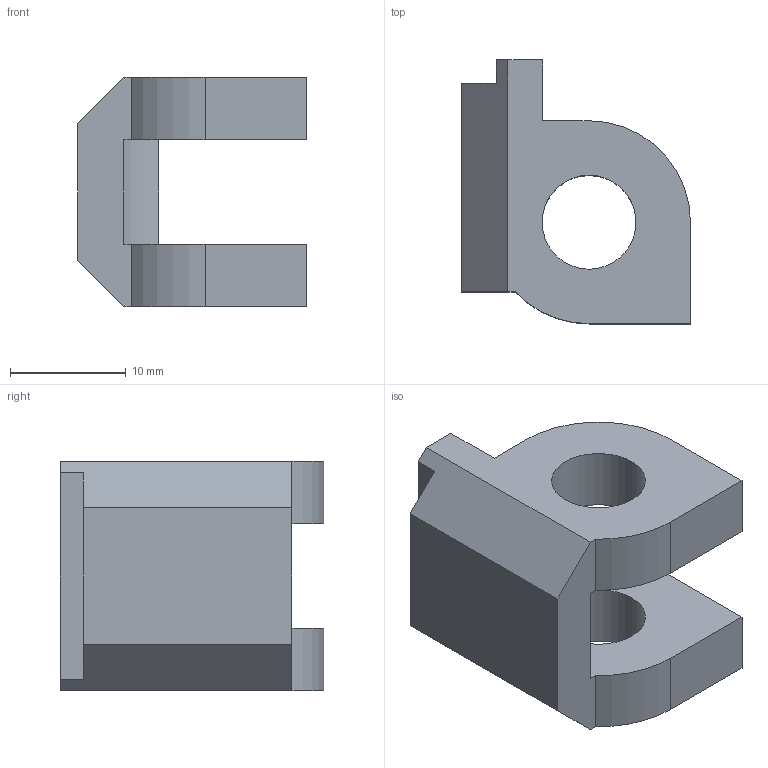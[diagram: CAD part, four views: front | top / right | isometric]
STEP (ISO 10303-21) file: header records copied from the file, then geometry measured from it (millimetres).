
FILE_DESCRIPTION((''),'2;1');
FILE_NAME('C:\Users\JamesRPatrick\Documents\Autodesk\PM422\STEP2.0\PM422FiringPinRetainer2.stp','2015-08-22T19:06:51',('JamesRPatrick'),(''),'Autodesk Inventor 2012','Autodesk Inventor 2012','');
FILE_SCHEMA(('AUTOMOTIVE_DESIGN { 1 0 10303 214 1 1 1 1 }'));
Length unit declared in the file: millimetre
Products named in the file (1): PM422FiringPinRetainer2
Bounding box: 19.75 x 22.75 x 19.8 mm (x, y, z)
Volume: 3595 mm3; surface area: 2485.2 mm2
Topology: 1 solids, 1 shells, 26 faces, 72 edges, 48 vertices
Faces by surface type: plane 19, cylinder 7
Full cylindrical faces by diameter (mm): 8.1 x2
Entity records: 854 total; most frequent: CARTESIAN_POINT 145, ORIENTED_EDGE 140, DIRECTION 138, EDGE_CURVE 70, VECTOR 56, LINE 56, VERTEX_POINT 48, AXIS2_PLACEMENT_3D 41
